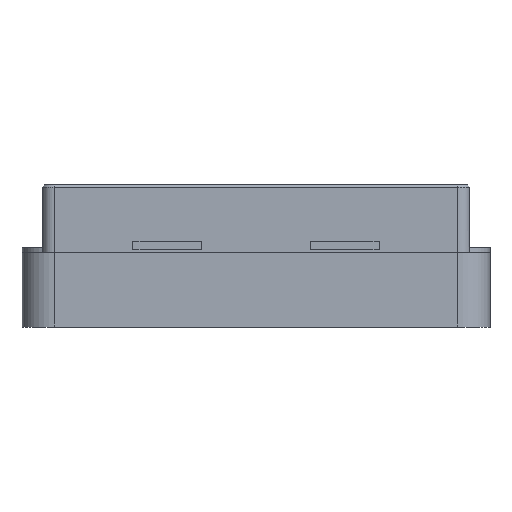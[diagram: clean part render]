
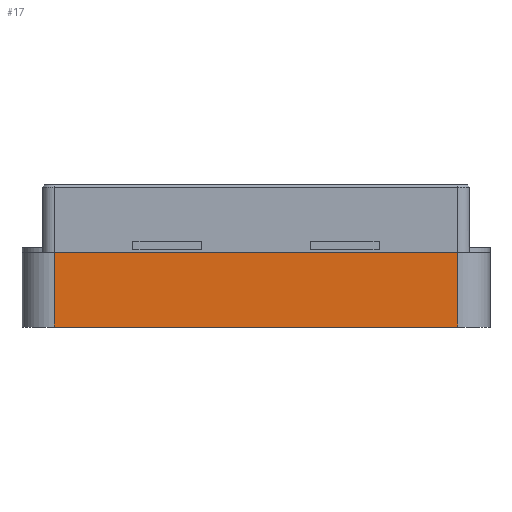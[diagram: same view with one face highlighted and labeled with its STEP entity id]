
A CAD part, left-side view. The second image highlights one B-rep face of the part: STEP entity #17.
In plain terms, the highlighted free-form (B-spline) face has degree [1, 1] with [2, 2] control points.
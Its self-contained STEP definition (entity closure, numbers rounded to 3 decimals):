
#17 = ADVANCED_FACE('',(#18),#31,.F.);
#18 = FACE_BOUND('',#19,.F.);
#19 = EDGE_LOOP('',(#20,#52,#80,#105));
#20 = ORIENTED_EDGE('',*,*,#21,.F.);
#21 = EDGE_CURVE('',#22,#24,#26,.T.);
#22 = VERTEX_POINT('',#23);
#23 = CARTESIAN_POINT('',(-29.,-25.,9.2));
#24 = VERTEX_POINT('',#25);
#25 = CARTESIAN_POINT('',(-29.,25.,9.2));
#26 = SURFACE_CURVE('',#27,(#30,#41),.PCURVE_S1.);
#27 = B_SPLINE_CURVE_WITH_KNOTS('',1,(#28,#29),.UNSPECIFIED.,.F.,.F.,(2,
    2),(4.,54.),.PIECEWISE_BEZIER_KNOTS.);
#28 = CARTESIAN_POINT('',(-29.,-25.,9.2));
#29 = CARTESIAN_POINT('',(-29.,25.,9.2));
#30 = PCURVE('',#31,#36);
#31 = B_SPLINE_SURFACE_WITH_KNOTS('',1,1,(
    (#32,#33)
    ,(#34,#35
    )),.UNSPECIFIED.,.F.,.F.,.F.,(2,2),(2,2),(0.,9.2),(-54.,-4.),
  .PIECEWISE_BEZIER_KNOTS.);
#32 = CARTESIAN_POINT('',(-29.,25.,0.));
#33 = CARTESIAN_POINT('',(-29.,-25.,0.));
#34 = CARTESIAN_POINT('',(-29.,25.,9.2));
#35 = CARTESIAN_POINT('',(-29.,-25.,9.2));
#36 = DEFINITIONAL_REPRESENTATION('',(#37),#40);
#37 = B_SPLINE_CURVE_WITH_KNOTS('',1,(#38,#39),.UNSPECIFIED.,.F.,.F.,(2,
    2),(4.,54.),.PIECEWISE_BEZIER_KNOTS.);
#38 = CARTESIAN_POINT('',(9.2,-4.));
#39 = CARTESIAN_POINT('',(9.2,-54.));
#40 = ( GEOMETRIC_REPRESENTATION_CONTEXT(2) 
PARAMETRIC_REPRESENTATION_CONTEXT() REPRESENTATION_CONTEXT('2D SPACE',''
  ) );
#41 = PCURVE('',#42,#47);
#42 = B_SPLINE_SURFACE_WITH_KNOTS('',1,1,(
    (#43,#44)
    ,(#45,#46)),.UNSPECIFIED.,.F.,.F.,.F.,(2,2),(2,2),(0.,58.),(0.,58.),
  .PIECEWISE_BEZIER_KNOTS.);
#43 = CARTESIAN_POINT('',(-29.,-29.,9.2));
#44 = CARTESIAN_POINT('',(-29.,29.,9.2));
#45 = CARTESIAN_POINT('',(29.,-29.,9.2));
#46 = CARTESIAN_POINT('',(29.,29.,9.2));
#47 = DEFINITIONAL_REPRESENTATION('',(#48),#51);
#48 = B_SPLINE_CURVE_WITH_KNOTS('',1,(#49,#50),.UNSPECIFIED.,.F.,.F.,(2,
    2),(4.,54.),.PIECEWISE_BEZIER_KNOTS.);
#49 = CARTESIAN_POINT('',(0.,4.));
#50 = CARTESIAN_POINT('',(0.,54.));
#51 = ( GEOMETRIC_REPRESENTATION_CONTEXT(2) 
PARAMETRIC_REPRESENTATION_CONTEXT() REPRESENTATION_CONTEXT('2D SPACE',''
  ) );
#52 = ORIENTED_EDGE('',*,*,#53,.F.);
#53 = EDGE_CURVE('',#54,#22,#56,.T.);
#54 = VERTEX_POINT('',#55);
#55 = CARTESIAN_POINT('',(-29.,-25.,0.));
#56 = SURFACE_CURVE('',#57,(#60,#66),.PCURVE_S1.);
#57 = B_SPLINE_CURVE_WITH_KNOTS('',1,(#58,#59),.UNSPECIFIED.,.F.,.F.,(2,
    2),(0.,9.2),.PIECEWISE_BEZIER_KNOTS.);
#58 = CARTESIAN_POINT('',(-29.,-25.,0.));
#59 = CARTESIAN_POINT('',(-29.,-25.,9.2));
#60 = PCURVE('',#31,#61);
#61 = DEFINITIONAL_REPRESENTATION('',(#62),#65);
#62 = B_SPLINE_CURVE_WITH_KNOTS('',1,(#63,#64),.UNSPECIFIED.,.F.,.F.,(2,
    2),(0.,9.2),.PIECEWISE_BEZIER_KNOTS.);
#63 = CARTESIAN_POINT('',(0.,-4.));
#64 = CARTESIAN_POINT('',(9.2,-4.));
#65 = ( GEOMETRIC_REPRESENTATION_CONTEXT(2) 
PARAMETRIC_REPRESENTATION_CONTEXT() REPRESENTATION_CONTEXT('2D SPACE',''
  ) );
#66 = PCURVE('',#67,#74);
#67 = ( BOUNDED_SURFACE() B_SPLINE_SURFACE(2,1,(
    (#68,#69)
    ,(#70,#71)
,(#72,#73
  )),.UNSPECIFIED.,.F.,.F.,.F.) B_SPLINE_SURFACE_WITH_KNOTS((3,3),(2,2),
  (0.,1.571),(0.,9.2),.PIECEWISE_BEZIER_KNOTS.) 
GEOMETRIC_REPRESENTATION_ITEM() RATIONAL_B_SPLINE_SURFACE((
    (1.,1.)
    ,(0.707,0.707)
,(1.,1.))) REPRESENTATION_ITEM('') SURFACE() );
#68 = CARTESIAN_POINT('',(-29.,-25.,0.));
#69 = CARTESIAN_POINT('',(-29.,-25.,9.2));
#70 = CARTESIAN_POINT('',(-29.,-29.,0.));
#71 = CARTESIAN_POINT('',(-29.,-29.,9.2));
#72 = CARTESIAN_POINT('',(-25.,-29.,0.));
#73 = CARTESIAN_POINT('',(-25.,-29.,9.2));
#74 = DEFINITIONAL_REPRESENTATION('',(#75),#79);
#75 = B_SPLINE_CURVE_WITH_KNOTS('',2,(#76,#77,#78),.UNSPECIFIED.,.F.,.F.
  ,(3,3),(0.,9.2),.PIECEWISE_BEZIER_KNOTS.);
#76 = CARTESIAN_POINT('',(0.,0.));
#77 = CARTESIAN_POINT('',(0.,4.6));
#78 = CARTESIAN_POINT('',(0.,9.2));
#79 = ( GEOMETRIC_REPRESENTATION_CONTEXT(2) 
PARAMETRIC_REPRESENTATION_CONTEXT() REPRESENTATION_CONTEXT('2D SPACE',''
  ) );
#80 = ORIENTED_EDGE('',*,*,#81,.T.);
#81 = EDGE_CURVE('',#54,#82,#84,.T.);
#82 = VERTEX_POINT('',#83);
#83 = CARTESIAN_POINT('',(-29.,25.,0.));
#84 = SURFACE_CURVE('',#85,(#88,#94),.PCURVE_S1.);
#85 = B_SPLINE_CURVE_WITH_KNOTS('',1,(#86,#87),.UNSPECIFIED.,.F.,.F.,(2,
    2),(4.,54.),.PIECEWISE_BEZIER_KNOTS.);
#86 = CARTESIAN_POINT('',(-29.,-25.,0.));
#87 = CARTESIAN_POINT('',(-29.,25.,0.));
#88 = PCURVE('',#31,#89);
#89 = DEFINITIONAL_REPRESENTATION('',(#90),#93);
#90 = B_SPLINE_CURVE_WITH_KNOTS('',1,(#91,#92),.UNSPECIFIED.,.F.,.F.,(2,
    2),(4.,54.),.PIECEWISE_BEZIER_KNOTS.);
#91 = CARTESIAN_POINT('',(0.,-4.));
#92 = CARTESIAN_POINT('',(0.,-54.));
#93 = ( GEOMETRIC_REPRESENTATION_CONTEXT(2) 
PARAMETRIC_REPRESENTATION_CONTEXT() REPRESENTATION_CONTEXT('2D SPACE',''
  ) );
#94 = PCURVE('',#95,#100);
#95 = B_SPLINE_SURFACE_WITH_KNOTS('',1,1,(
    (#96,#97)
    ,(#98,#99)),.UNSPECIFIED.,.F.,.F.,.F.,(2,2),(2,2),(0.,58.),(0.,58.),
  .PIECEWISE_BEZIER_KNOTS.);
#96 = CARTESIAN_POINT('',(-29.,-29.,0.));
#97 = CARTESIAN_POINT('',(-29.,29.,0.));
#98 = CARTESIAN_POINT('',(29.,-29.,0.));
#99 = CARTESIAN_POINT('',(29.,29.,0.));
#100 = DEFINITIONAL_REPRESENTATION('',(#101),#104);
#101 = B_SPLINE_CURVE_WITH_KNOTS('',1,(#102,#103),.UNSPECIFIED.,.F.,.F.,
  (2,2),(4.,54.),.PIECEWISE_BEZIER_KNOTS.);
#102 = CARTESIAN_POINT('',(0.,4.));
#103 = CARTESIAN_POINT('',(0.,54.));
#104 = ( GEOMETRIC_REPRESENTATION_CONTEXT(2) 
PARAMETRIC_REPRESENTATION_CONTEXT() REPRESENTATION_CONTEXT('2D SPACE',''
  ) );
#105 = ORIENTED_EDGE('',*,*,#106,.T.);
#106 = EDGE_CURVE('',#82,#24,#107,.T.);
#107 = SURFACE_CURVE('',#108,(#111,#117),.PCURVE_S1.);
#108 = B_SPLINE_CURVE_WITH_KNOTS('',1,(#109,#110),.UNSPECIFIED.,.F.,.F.,
  (2,2),(0.,9.2),.PIECEWISE_BEZIER_KNOTS.);
#109 = CARTESIAN_POINT('',(-29.,25.,0.));
#110 = CARTESIAN_POINT('',(-29.,25.,9.2));
#111 = PCURVE('',#31,#112);
#112 = DEFINITIONAL_REPRESENTATION('',(#113),#116);
#113 = B_SPLINE_CURVE_WITH_KNOTS('',1,(#114,#115),.UNSPECIFIED.,.F.,.F.,
  (2,2),(0.,9.2),.PIECEWISE_BEZIER_KNOTS.);
#114 = CARTESIAN_POINT('',(0.,-54.));
#115 = CARTESIAN_POINT('',(9.2,-54.));
#116 = ( GEOMETRIC_REPRESENTATION_CONTEXT(2) 
PARAMETRIC_REPRESENTATION_CONTEXT() REPRESENTATION_CONTEXT('2D SPACE',''
  ) );
#117 = PCURVE('',#118,#125);
#118 = ( BOUNDED_SURFACE() B_SPLINE_SURFACE(2,1,(
    (#119,#120)
    ,(#121,#122)
,(#123,#124
    )),.UNSPECIFIED.,.F.,.F.,.F.) B_SPLINE_SURFACE_WITH_KNOTS((3,3),(2,2
    ),(0.,1.571),(0.,9.2),.PIECEWISE_BEZIER_KNOTS.) 
GEOMETRIC_REPRESENTATION_ITEM() RATIONAL_B_SPLINE_SURFACE((
    (1.,1.)
    ,(0.707,0.707)
,(1.,1.))) REPRESENTATION_ITEM('') SURFACE() );
#119 = CARTESIAN_POINT('',(-29.,25.,0.));
#120 = CARTESIAN_POINT('',(-29.,25.,9.2));
#121 = CARTESIAN_POINT('',(-29.,29.,0.));
#122 = CARTESIAN_POINT('',(-29.,29.,9.2));
#123 = CARTESIAN_POINT('',(-25.,29.,0.));
#124 = CARTESIAN_POINT('',(-25.,29.,9.2));
#125 = DEFINITIONAL_REPRESENTATION('',(#126),#130);
#126 = B_SPLINE_CURVE_WITH_KNOTS('',2,(#127,#128,#129),.UNSPECIFIED.,.F.
  ,.F.,(3,3),(0.,9.2),.PIECEWISE_BEZIER_KNOTS.);
#127 = CARTESIAN_POINT('',(0.,0.));
#128 = CARTESIAN_POINT('',(0.,4.6));
#129 = CARTESIAN_POINT('',(0.,9.2));
#130 = ( GEOMETRIC_REPRESENTATION_CONTEXT(2) 
PARAMETRIC_REPRESENTATION_CONTEXT() REPRESENTATION_CONTEXT('2D SPACE',''
  ) );
